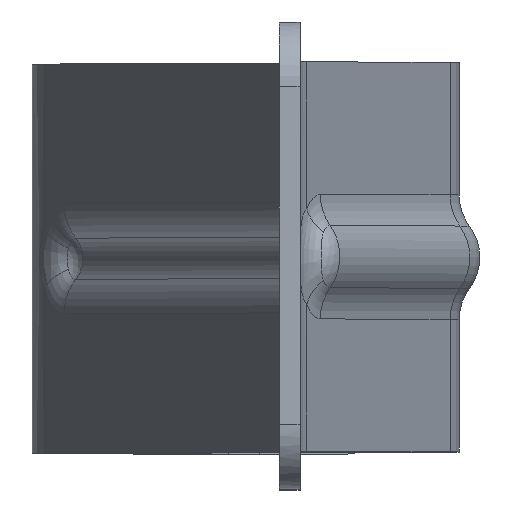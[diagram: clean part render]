
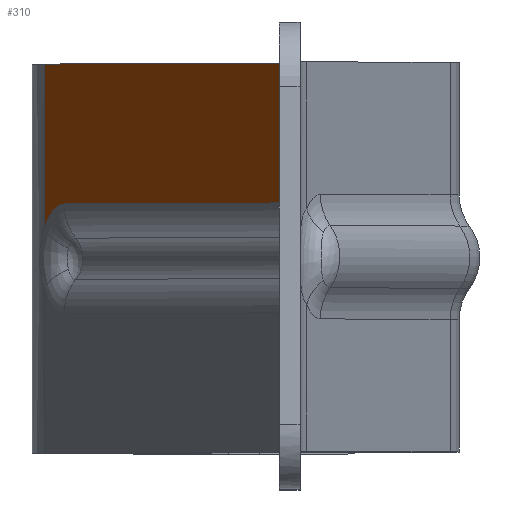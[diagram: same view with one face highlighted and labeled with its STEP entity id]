
A CAD part, top view. The second image highlights one B-rep face of the part: STEP entity #310.
In plain terms, the highlighted planar face has unit normal (-0.906, 0, 0.423).
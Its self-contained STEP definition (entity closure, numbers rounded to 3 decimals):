
#120 = CARTESIAN_POINT ( 'NONE',  ( -2.631, 4.233, -101.578 ) ) ;
#129 = VECTOR ( 'NONE', #2930, 1000. ) ;
#196 = CARTESIAN_POINT ( 'NONE',  ( 11.319, 9.617, -71.662 ) ) ;
#207 = CARTESIAN_POINT ( 'NONE',  ( 13.069, 0., -67.908 ) ) ;
#255 = VERTEX_POINT ( 'NONE', #2327 ) ;
#310 = ADVANCED_FACE ( 'NONE', ( #2852 ), #2620, .F. ) ;
#323 = DIRECTION ( 'NONE',  ( 0.906, 0., -0.423 ) ) ;
#338 = VECTOR ( 'NONE', #2629, 1000. ) ;
#523 = VERTEX_POINT ( 'NONE', #1731 ) ;
#556 = VERTEX_POINT ( 'NONE', #2202 ) ;
#560 = EDGE_CURVE ( 'NONE', #2218, #523, #768, .T. ) ;
#702 = LINE ( 'NONE', #3042, #338 ) ;
#768 = LINE ( 'NONE', #1971, #129 ) ;
#925 = CARTESIAN_POINT ( 'NONE',  ( 11.319, 4.233, -71.662 ) ) ;
#1004 = DIRECTION ( 'NONE',  ( -0.423, 0., -0.906 ) ) ;
#1005 = EDGE_CURVE ( 'NONE', #2218, #556, #1296, .T. ) ;
#1077 = DIRECTION ( 'NONE',  ( 0.423, 0., 0.906 ) ) ;
#1141 = VECTOR ( 'NONE', #1077, 1000. ) ;
#1172 = ORIENTED_EDGE ( 'NONE', *, *, #1005, .T. ) ;
#1278 = EDGE_CURVE ( 'NONE', #556, #3013, #2273, .T. ) ;
#1296 = CIRCLE ( 'NONE', #2599, 4.233 ) ;
#1356 = ORIENTED_EDGE ( 'NONE', *, *, #2189, .F. ) ;
#1537 = CARTESIAN_POINT ( 'NONE',  ( -16.582, 0., -131.494 ) ) ;
#1579 = ORIENTED_EDGE ( 'NONE', *, *, #560, .F. ) ;
#1640 = DIRECTION ( 'NONE',  ( 0., -1., 0. ) ) ;
#1731 = CARTESIAN_POINT ( 'NONE',  ( -18.117, 15., -134.786 ) ) ;
#1735 = AXIS2_PLACEMENT_3D ( 'NONE', #207, #1892, #2884 ) ;
#1892 = DIRECTION ( 'NONE',  ( 0.906, 0., -0.423 ) ) ;
#1935 = ORIENTED_EDGE ( 'NONE', *, *, #2739, .F. ) ;
#1971 = CARTESIAN_POINT ( 'NONE',  ( -18.117, 8.587, -134.786 ) ) ;
#2189 = EDGE_CURVE ( 'NONE', #523, #255, #702, .T. ) ;
#2202 = CARTESIAN_POINT ( 'NONE',  ( -16.582, 4.233, -131.494 ) ) ;
#2218 = VERTEX_POINT ( 'NONE', #2613 ) ;
#2273 = LINE ( 'NONE', #120, #1141 ) ;
#2327 = CARTESIAN_POINT ( 'NONE',  ( 11.319, 15., -71.662 ) ) ;
#2349 = LINE ( 'NONE', #196, #3006 ) ;
#2517 = EDGE_LOOP ( 'NONE', ( #1172, #2626, #1935, #1356, #1579 ) ) ;
#2599 = AXIS2_PLACEMENT_3D ( 'NONE', #1537, #323, #1004 ) ;
#2613 = CARTESIAN_POINT ( 'NONE',  ( -18.117, 2.174, -134.786 ) ) ;
#2620 = PLANE ( 'NONE',  #1735 ) ;
#2626 = ORIENTED_EDGE ( 'NONE', *, *, #1278, .T. ) ;
#2629 = DIRECTION ( 'NONE',  ( 0.423, 0., 0.906 ) ) ;
#2739 = EDGE_CURVE ( 'NONE', #255, #3013, #2349, .T. ) ;
#2852 = FACE_OUTER_BOUND ( 'NONE', #2517, .T. ) ;
#2884 = DIRECTION ( 'NONE',  ( -0.423, 0., -0.906 ) ) ;
#2930 = DIRECTION ( 'NONE',  ( 0., 1., 0. ) ) ;
#3006 = VECTOR ( 'NONE', #1640, 1000. ) ;
#3013 = VERTEX_POINT ( 'NONE', #925 ) ;
#3042 = CARTESIAN_POINT ( 'NONE',  ( -3.399, 15., -103.224 ) ) ;
